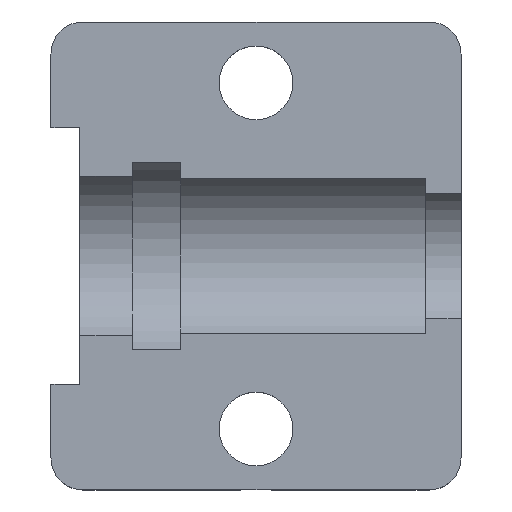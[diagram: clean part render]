
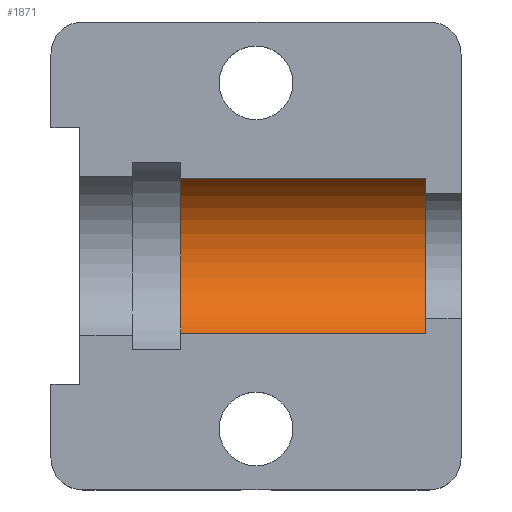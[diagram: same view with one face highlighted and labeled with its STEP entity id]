
A CAD part, top view. The second image highlights one B-rep face of the part: STEP entity #1871.
In plain terms, the highlighted cylindrical face has radius 2.75 mm (diameter 5.5 mm), a partial arc.
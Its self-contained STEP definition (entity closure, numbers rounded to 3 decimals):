
#100 = PLANE('',#101);
#101 = AXIS2_PLACEMENT_3D('',#102,#103,#104);
#102 = CARTESIAN_POINT('',(-7.,5.,-8.3));
#103 = DIRECTION('',(0.,0.,1.));
#104 = DIRECTION('',(1.,0.,0.));
#758 = VERTEX_POINT('',#759);
#759 = CARTESIAN_POINT('',(-1.7,2.577,-8.3));
#772 = PLANE('',#773);
#773 = AXIS2_PLACEMENT_3D('',#774,#775,#776);
#774 = CARTESIAN_POINT('',(-1.7,5.,-7.));
#775 = DIRECTION('',(1.,0.,0.));
#776 = DIRECTION('',(-0.,1.,0.));
#783 = EDGE_CURVE('',#784,#758,#786,.T.);
#784 = VERTEX_POINT('',#785);
#785 = CARTESIAN_POINT('',(-9.35,2.577,-8.3));
#786 = SURFACE_CURVE('',#787,(#791,#797),.PCURVE_S1.);
#787 = LINE('',#788,#789);
#788 = CARTESIAN_POINT('',(-9.35,2.577,-8.3));
#789 = VECTOR('',#790,1.);
#790 = DIRECTION('',(1.,0.,0.));
#791 = PCURVE('',#100,#792);
#792 = DEFINITIONAL_REPRESENTATION('',(#793),#796);
#793 = B_SPLINE_CURVE_WITH_KNOTS('',1,(#794,#795),.UNSPECIFIED.,.F.,.F.,
  (2,2),(0.,7.65),.PIECEWISE_BEZIER_KNOTS.);
#794 = CARTESIAN_POINT('',(-2.35,-2.423));
#795 = CARTESIAN_POINT('',(5.3,-2.423));
#796 = ( GEOMETRIC_REPRESENTATION_CONTEXT(2) 
PARAMETRIC_REPRESENTATION_CONTEXT() REPRESENTATION_CONTEXT('2D SPACE',''
  ) );
#797 = PCURVE('',#798,#803);
#798 = CYLINDRICAL_SURFACE('',#799,2.75);
#799 = AXIS2_PLACEMENT_3D('',#800,#801,#802);
#800 = CARTESIAN_POINT('',(-9.35,5.,-7.));
#801 = DIRECTION('',(1.,0.,0.));
#802 = DIRECTION('',(-0.,1.,0.));
#803 = DEFINITIONAL_REPRESENTATION('',(#804),#807);
#804 = B_SPLINE_CURVE_WITH_KNOTS('',1,(#805,#806),.UNSPECIFIED.,.F.,.F.,
  (2,2),(0.,7.65),.PIECEWISE_BEZIER_KNOTS.);
#805 = CARTESIAN_POINT('',(3.634,0.));
#806 = CARTESIAN_POINT('',(3.634,7.65));
#807 = ( GEOMETRIC_REPRESENTATION_CONTEXT(2) 
PARAMETRIC_REPRESENTATION_CONTEXT() REPRESENTATION_CONTEXT('2D SPACE',''
  ) );
#824 = PLANE('',#825);
#825 = AXIS2_PLACEMENT_3D('',#826,#827,#828);
#826 = CARTESIAN_POINT('',(-9.35,5.,-7.));
#827 = DIRECTION('',(1.,0.,0.));
#828 = DIRECTION('',(-0.,1.,0.));
#1034 = PLANE('',#1035);
#1035 = AXIS2_PLACEMENT_3D('',#1036,#1037,#1038);
#1036 = CARTESIAN_POINT('',(-7.,5.,-8.3));
#1037 = DIRECTION('',(0.,0.,1.));
#1038 = DIRECTION('',(1.,0.,0.));
#1779 = EDGE_CURVE('',#758,#1780,#1782,.T.);
#1780 = VERTEX_POINT('',#1781);
#1781 = CARTESIAN_POINT('',(-1.7,7.423,-8.3));
#1782 = SURFACE_CURVE('',#1783,(#1788,#1795),.PCURVE_S1.);
#1783 = CIRCLE('',#1784,2.75);
#1784 = AXIS2_PLACEMENT_3D('',#1785,#1786,#1787);
#1785 = CARTESIAN_POINT('',(-1.7,5.,-7.));
#1786 = DIRECTION('',(1.,0.,0.));
#1787 = DIRECTION('',(-0.,1.,0.));
#1788 = PCURVE('',#772,#1789);
#1789 = DEFINITIONAL_REPRESENTATION('',(#1790),#1794);
#1790 = CIRCLE('',#1791,2.75);
#1791 = AXIS2_PLACEMENT_2D('',#1792,#1793);
#1792 = CARTESIAN_POINT('',(0.,0.));
#1793 = DIRECTION('',(1.,0.));
#1794 = ( GEOMETRIC_REPRESENTATION_CONTEXT(2) 
PARAMETRIC_REPRESENTATION_CONTEXT() REPRESENTATION_CONTEXT('2D SPACE',''
  ) );
#1795 = PCURVE('',#798,#1796);
#1796 = DEFINITIONAL_REPRESENTATION('',(#1797),#1801);
#1797 = LINE('',#1798,#1799);
#1798 = CARTESIAN_POINT('',(0.,7.65));
#1799 = VECTOR('',#1800,1.);
#1800 = DIRECTION('',(1.,0.));
#1801 = ( GEOMETRIC_REPRESENTATION_CONTEXT(2) 
PARAMETRIC_REPRESENTATION_CONTEXT() REPRESENTATION_CONTEXT('2D SPACE',''
  ) );
#1830 = VERTEX_POINT('',#1831);
#1831 = CARTESIAN_POINT('',(-9.35,7.423,-8.3));
#1850 = EDGE_CURVE('',#784,#1830,#1851,.T.);
#1851 = SURFACE_CURVE('',#1852,(#1857,#1864),.PCURVE_S1.);
#1852 = CIRCLE('',#1853,2.75);
#1853 = AXIS2_PLACEMENT_3D('',#1854,#1855,#1856);
#1854 = CARTESIAN_POINT('',(-9.35,5.,-7.));
#1855 = DIRECTION('',(1.,0.,0.));
#1856 = DIRECTION('',(-0.,1.,0.));
#1857 = PCURVE('',#824,#1858);
#1858 = DEFINITIONAL_REPRESENTATION('',(#1859),#1863);
#1859 = CIRCLE('',#1860,2.75);
#1860 = AXIS2_PLACEMENT_2D('',#1861,#1862);
#1861 = CARTESIAN_POINT('',(0.,0.));
#1862 = DIRECTION('',(1.,0.));
#1863 = ( GEOMETRIC_REPRESENTATION_CONTEXT(2) 
PARAMETRIC_REPRESENTATION_CONTEXT() REPRESENTATION_CONTEXT('2D SPACE',''
  ) );
#1864 = PCURVE('',#798,#1865);
#1865 = DEFINITIONAL_REPRESENTATION('',(#1866),#1870);
#1866 = LINE('',#1867,#1868);
#1867 = CARTESIAN_POINT('',(0.,0.));
#1868 = VECTOR('',#1869,1.);
#1869 = DIRECTION('',(1.,0.));
#1870 = ( GEOMETRIC_REPRESENTATION_CONTEXT(2) 
PARAMETRIC_REPRESENTATION_CONTEXT() REPRESENTATION_CONTEXT('2D SPACE',''
  ) );
#1871 = ADVANCED_FACE('',(#1872),#798,.F.);
#1872 = FACE_BOUND('',#1873,.F.);
#1873 = EDGE_LOOP('',(#1874,#1893,#1894,#1895));
#1874 = ORIENTED_EDGE('',*,*,#1875,.T.);
#1875 = EDGE_CURVE('',#1830,#1780,#1876,.T.);
#1876 = SURFACE_CURVE('',#1877,(#1881,#1887),.PCURVE_S1.);
#1877 = LINE('',#1878,#1879);
#1878 = CARTESIAN_POINT('',(-9.35,7.423,-8.3));
#1879 = VECTOR('',#1880,1.);
#1880 = DIRECTION('',(1.,0.,0.));
#1881 = PCURVE('',#798,#1882);
#1882 = DEFINITIONAL_REPRESENTATION('',(#1883),#1886);
#1883 = B_SPLINE_CURVE_WITH_KNOTS('',1,(#1884,#1885),.UNSPECIFIED.,.F.,
  .F.,(2,2),(0.,7.65),.PIECEWISE_BEZIER_KNOTS.);
#1884 = CARTESIAN_POINT('',(5.791,0.));
#1885 = CARTESIAN_POINT('',(5.791,7.65));
#1886 = ( GEOMETRIC_REPRESENTATION_CONTEXT(2) 
PARAMETRIC_REPRESENTATION_CONTEXT() REPRESENTATION_CONTEXT('2D SPACE',''
  ) );
#1887 = PCURVE('',#1034,#1888);
#1888 = DEFINITIONAL_REPRESENTATION('',(#1889),#1892);
#1889 = B_SPLINE_CURVE_WITH_KNOTS('',1,(#1890,#1891),.UNSPECIFIED.,.F.,
  .F.,(2,2),(0.,7.65),.PIECEWISE_BEZIER_KNOTS.);
#1890 = CARTESIAN_POINT('',(-2.35,2.423));
#1891 = CARTESIAN_POINT('',(5.3,2.423));
#1892 = ( GEOMETRIC_REPRESENTATION_CONTEXT(2) 
PARAMETRIC_REPRESENTATION_CONTEXT() REPRESENTATION_CONTEXT('2D SPACE',''
  ) );
#1893 = ORIENTED_EDGE('',*,*,#1779,.F.);
#1894 = ORIENTED_EDGE('',*,*,#783,.F.);
#1895 = ORIENTED_EDGE('',*,*,#1850,.T.);
